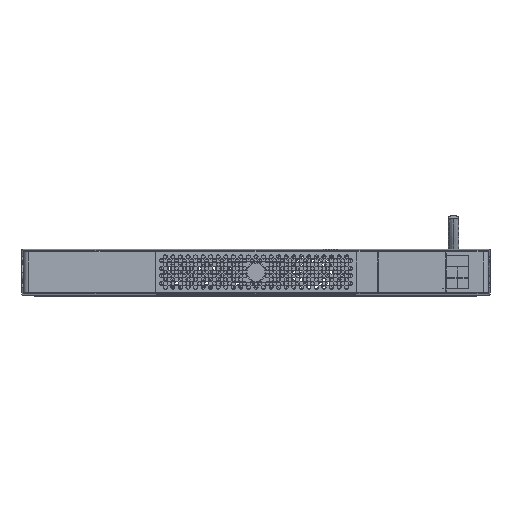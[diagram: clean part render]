
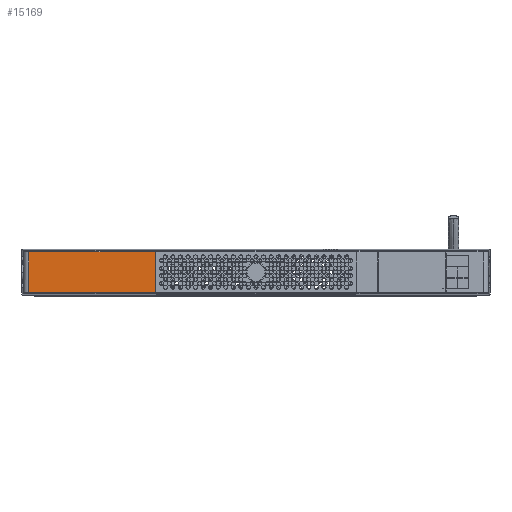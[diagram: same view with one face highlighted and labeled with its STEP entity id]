
A CAD part, top view. The second image highlights one B-rep face of the part: STEP entity #15169.
In plain terms, the highlighted planar face has unit normal (0, 0, 1).
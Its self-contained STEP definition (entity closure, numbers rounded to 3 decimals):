
#13693=DIRECTION('',(0.,1.,0.));
#13694=VECTOR('',#13693,37.748);
#13695=CARTESIAN_POINT('',(-94.423,2.726,33.));
#13696=LINE('',#13695,#13694);
#13697=DIRECTION('',(-1.,0.,0.));
#13698=VECTOR('',#13697,118.155);
#13699=CARTESIAN_POINT('',(-94.423,2.726,33.));
#13700=LINE('',#13699,#13698);
#13701=DIRECTION('',(0.,-1.,0.));
#13702=VECTOR('',#13701,37.748);
#13703=CARTESIAN_POINT('',(-212.578,40.474,
33.));
#13704=LINE('',#13703,#13702);
#13705=DIRECTION('',(-1.,0.,0.));
#13706=VECTOR('',#13705,118.155);
#13707=CARTESIAN_POINT('',(-94.423,40.474,33.));
#13708=LINE('',#13707,#13706);
#13875=CARTESIAN_POINT('',(-94.423,40.474,33.));
#14745=CARTESIAN_POINT('',(-212.578,40.474,
33.));
#14747=VERTEX_POINT('',#14745);
#14748=CARTESIAN_POINT('',(-212.578,2.726,33.));
#14750=VERTEX_POINT('',#14748);
#15004=VERTEX_POINT('',#13875);
#15005=CARTESIAN_POINT('',(-94.423,2.726,33.));
#15006=VERTEX_POINT('',#15005);
#15154=CARTESIAN_POINT('',(0.,21.6,33.));
#15155=DIRECTION('',(0.,0.,1.));
#15156=DIRECTION('',(1.,0.,0.));
#15157=AXIS2_PLACEMENT_3D('',#15154,#15155,#15156);
#15158=PLANE('',#15157);
#15160=ORIENTED_EDGE('',*,*,#15159,.F.);
#15162=ORIENTED_EDGE('',*,*,#15161,.T.);
#15164=ORIENTED_EDGE('',*,*,#15163,.F.);
#15166=ORIENTED_EDGE('',*,*,#15165,.F.);
#15167=EDGE_LOOP('',(#15160,#15162,#15164,#15166));
#15168=FACE_OUTER_BOUND('',#15167,.F.);
#15169=ADVANCED_FACE('',(#15168),#15158,.T.);
#15159=EDGE_CURVE('',#15006,#15004,#13696,.T.);
#15161=EDGE_CURVE('',#15006,#14750,#13700,.T.);
#15163=EDGE_CURVE('',#14747,#14750,#13704,.T.);
#15165=EDGE_CURVE('',#15004,#14747,#13708,.T.);
